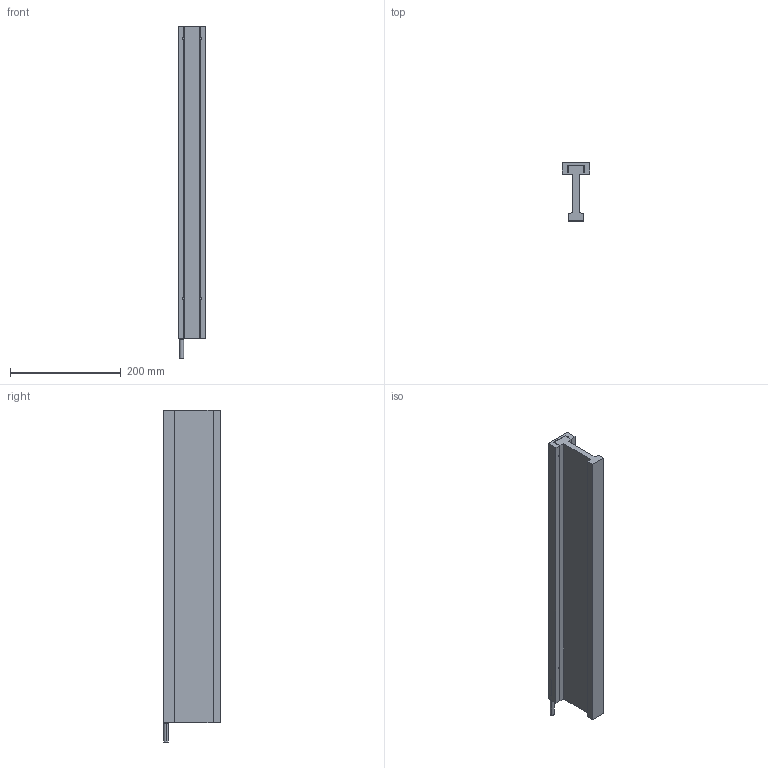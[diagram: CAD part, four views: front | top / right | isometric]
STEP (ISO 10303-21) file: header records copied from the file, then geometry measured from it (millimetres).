
FILE_DESCRIPTION (( 'STEP AP214' ), '1' );
FILE_NAME ('DX65F-C9-NH.step', '2022-09-22T03:42:05', ( '' ), ( '' ), 'SwSTEP 2.0', 'SolidWorks 2020', '' );
FILE_SCHEMA (( 'AUTOMOTIVE_DESIGN' ));
Length unit declared in the file: millimetre
Products named in the file (1): DX65F-C9-NH
Bounding box: 49 x 104 x 600 mm (x, y, z)
Volume: 1198272.1 mm3; surface area: 266048.2 mm2
Topology: 3 solids, 3 shells, 163 faces, 421 edges, 243 vertices
Faces by surface type: cylinder 71, plane 47, cone 42, torus 2, bspline 1
Entity records: 6702 total; most frequent: CARTESIAN_POINT 1014, DIRECTION 834, ORIENTED_EDGE 758, EDGE_CURVE 379, AXIS2_PLACEMENT_3D 301, VERTEX_POINT 243, VECTOR 232, LINE 232
